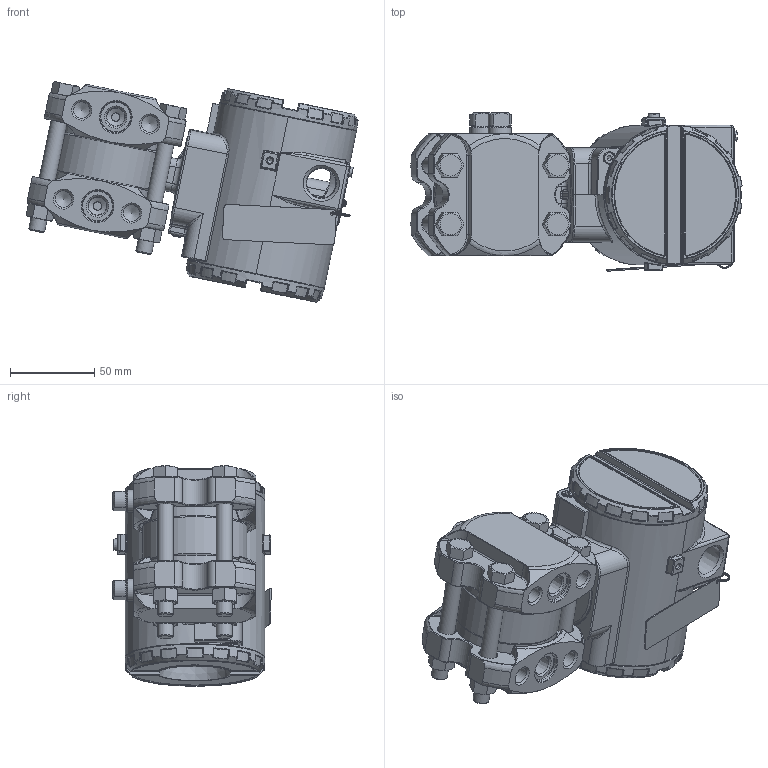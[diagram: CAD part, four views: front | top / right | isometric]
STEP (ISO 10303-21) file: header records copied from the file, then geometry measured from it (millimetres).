
FILE_DESCRIPTION(/* description */ (''),/* implementation_level */ '2;1');
FILE_NAME(/* name */ 'F:\Area\Desenvolvimento_2\Projects\Sensor\projetos\LD30X\montagens 3d - clientes\LD30XD0-3 1-4NPT Monel sem purga.stp',/* time_stamp */ '2023-01-26T11:30:07-03:00',/* author */ ('inventor02'),/* organization */ (''),/* preprocessor_version */ 'ST-DEVELOPER v17',/* originating_system */ 'Autodesk Inventor 2019',/* authorisation */ '');
FILE_SCHEMA (('CONFIG_CONTROL_DESIGN'));
Products named in the file (28): LD30XD3 1-4NPT Monel sem purga; diferencial FX0-3 monel sem purga; involucro fx0-3 apos a usinagem final; bujao 1-4NPT; 101-C-0040-05 monel barra 7-16; Paraf. 3-8 x 16 UNC; Porca 3-8 x 16 UNC; carcaça vazia com tampas e plaqueta; carcaça LD inox sem letras; Subconjunto plaqueta 300; Plaqueta transmissor; Parafuso da Plaqueta; Rebite da Plaqueta; 096-A-0169-03; 101-A-0502-01; Chapa aterramento externo; ISO 1207 - M4 x 8; DIN 915 - M6 x 10; ANSI B18.3.1M - M4x0,7 x 8; Subconjunto tampa com visor aluminio; tampa pintada; VIDRO DO VISOR; oring 41x1 vidro tampa; Trava do vidro da tampa com visor; trava do vidro VH256; Subconjunto tampa sem visor-aluminio; tampa cega 300 pintada p0; 00034775-0
Assembly tree (37 placements, depth 4):
  LD30XD3 1-4NPT Monel sem purga
    diferencial FX0-3 monel sem purga
      involucro fx0-3 apos a usinagem final
      bujao 1-4NPT  x2
      101-C-0040-05 monel barra 7-16  x2
      Paraf. 3-8 x 16 UNC  x4
      Porca 3-8 x 16 UNC  x4
    carcaça vazia com tampas e plaqueta
      carcaça LD inox sem letras
      Subconjunto plaqueta 300
        Plaqueta transmissor
        Parafuso da Plaqueta
        Rebite da Plaqueta
        096-A-0169-03
        101-A-0502-01
      Chapa aterramento externo
      ISO 1207 - M4 x 8
      DIN 915 - M6 x 10
      ANSI B18.3.1M - M4x0,7 x 8  x2
      Subconjunto tampa com visor aluminio
        tampa pintada
        VIDRO DO VISOR
        oring 41x1 vidro tampa
        Trava do vidro da tampa com visor
        trava do vidro VH256
        00034775-0
      Subconjunto tampa sem visor-aluminio
        tampa cega 300 pintada p0
        00034775-0
Bounding box: 197.48 x 94.1 x 131.04 mm (x, y, z)
Volume: 635597.7 mm3; surface area: 234069.1 mm2
Topology: 32 solids, 32 shells, 2216 faces, 5361 edges, 3177 vertices
Faces by surface type: bspline 589, cylinder 483, plane 440, torus 348, cone 253, sphere 103
Full cylindrical faces by diameter (mm): 2 x2, 2.1 x2, 2.459 x5, 2.642 x1, 2.7 x1, 3 x1, 3.242 x4, 3.5 x4, 3.571 x1, 4 x4, 4.3 x1, 4.4 x1, 4.917 x1, 5 x4, 6 x2, 7 x4, 7.087 x2, 7.6 x2, 7.798 x4, 8.7 x2, 9.525 x4, 9.728 x8, 10.5 x8, 10.719 x4, 12 x2, 13.8 x2, 14 x1, 17.475 x2, 18.5 x4, 26 x2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
Entity records: 70593 total; most frequent: CARTESIAN_POINT 27819, ORIENTED_EDGE 8968, DIRECTION 8513, EDGE_CURVE 4484, AXIS2_PLACEMENT_3D 3742, VERTEX_POINT 2674, CIRCLE 2209, EDGE_LOOP 1990
